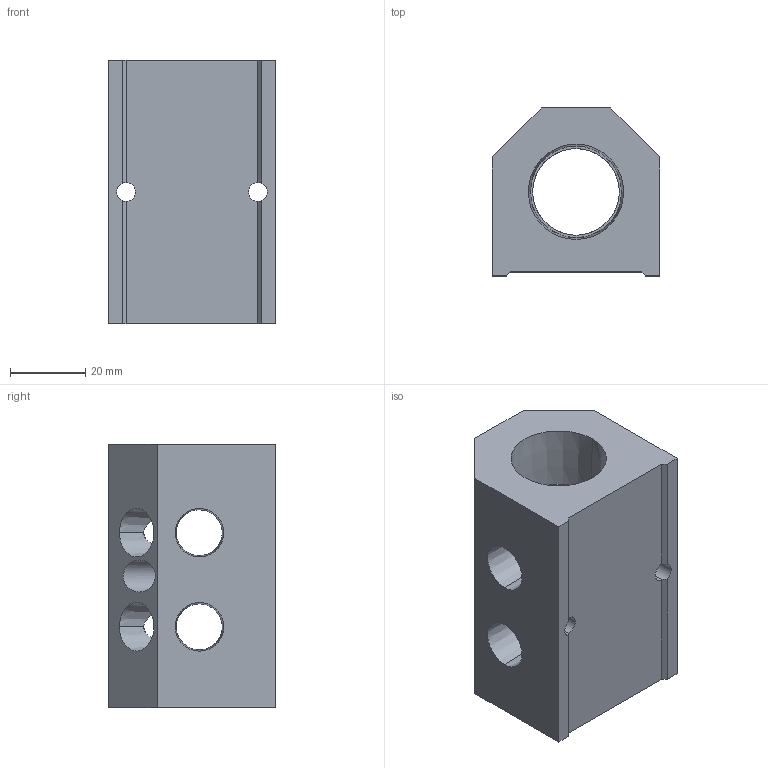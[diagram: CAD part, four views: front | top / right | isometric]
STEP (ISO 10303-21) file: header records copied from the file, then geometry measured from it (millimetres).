
FILE_DESCRIPTION (( 'STEP AP214' ), '1' );
FILE_NAME ('ALM2ABCDE-N4N12-70R.step', '2022-02-06T14:05:56', ( '' ), ( '' ), 'SwSTEP 2.0', 'SolidWorks 2020', '' );
FILE_SCHEMA (( 'AUTOMOTIVE_DESIGN' ));
Length unit declared in the file: millimetre
Products named in the file (1): ALM2ABCDE-N4N12-70R
Bounding box: 44.5 x 44.5 x 70 mm (x, y, z)
Volume: 77335.1 mm3; surface area: 22263.9 mm2
Topology: 1 solids, 1 shells, 341 faces, 941 edges, 626 vertices
Faces by surface type: plane 231, bspline 55, cone 32, cylinder 23
Entity records: 18484 total; most frequent: CARTESIAN_POINT 7166, ORIENTED_EDGE 1882, DIRECTION 1359, EDGE_CURVE 941, LINE 653, VECTOR 653, VERTEX_POINT 626, EDGE_LOOP 391
